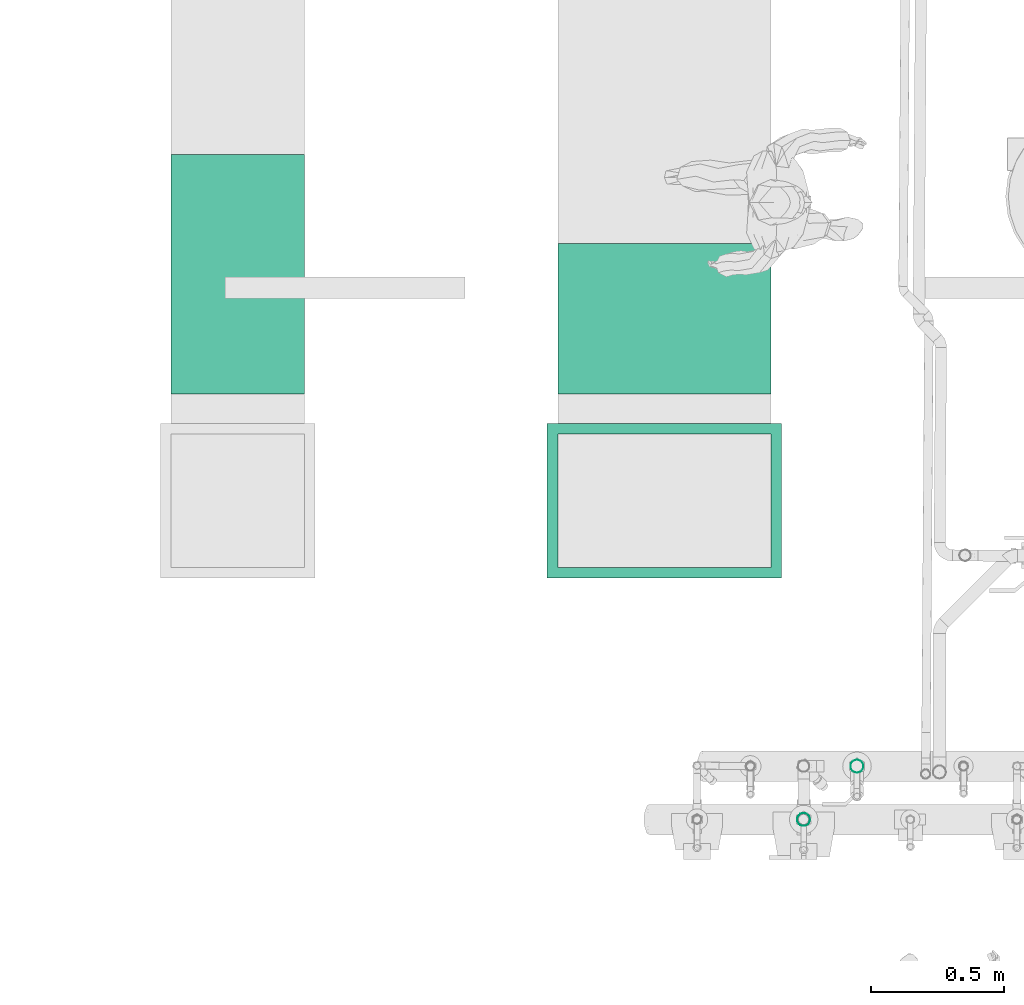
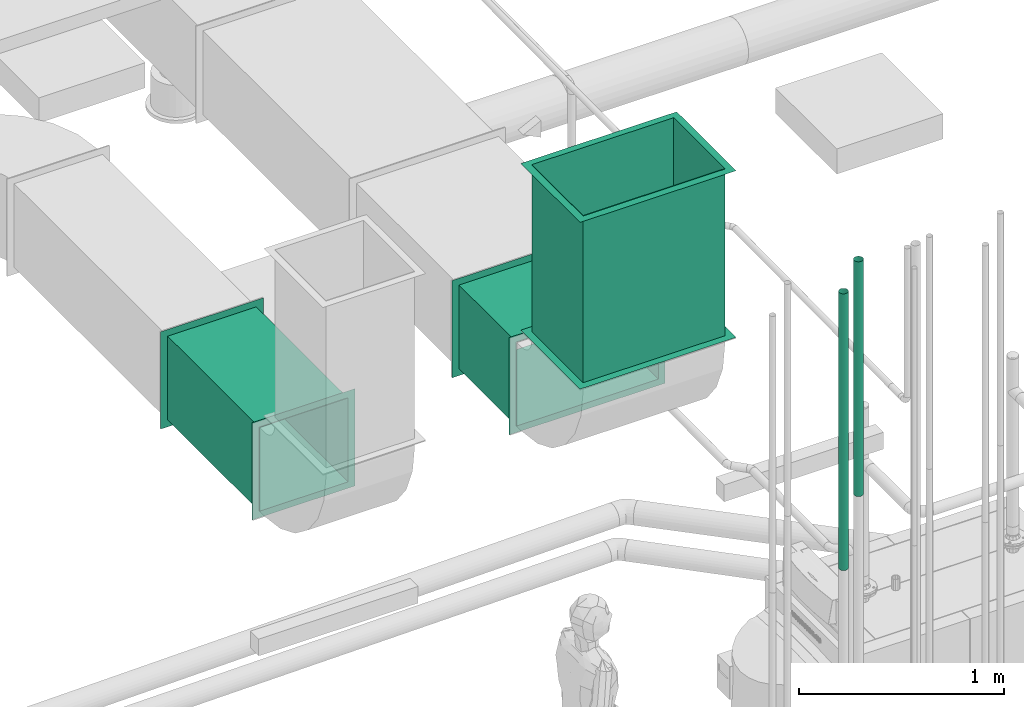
# One storey, part 204 of 374: 5 flow segments.
"""IFC2X3 building model written with IfcOpenShell, lengths in metres."""

import ifcopenshell
import ifcopenshell.guid

model = None  # the IFC model being written
_history = None  # IfcOwnerHistory: only IFC2X3 demands one
_inside = {}  # id of a spatial element -> (the spatial element, [elements in it])
_under = {}  # id of a project, library or spatial element -> (it, [spatial elements below it])
_declared = {}  # id of a project -> (the project, [libraries it declares])
_typed = {}  # id of a type object -> (the type object, [elements of that type])
_made_of = {}  # id of a material, layer set ... -> (it, [elements and type objects made of it])


def new_model(schema):
    """Start an empty IFC model of exactly this schema.

    Asked for "IFC4X3", IfcOpenShell would pick the latest addendum, in which some entities
    have other attributes; the version numbers below select the first issue.
    IFC2X3 requires an IfcOwnerHistory on every rooted entity: one is made here for all.
    """
    global model, _history
    if schema == "IFC4X3":
        model = ifcopenshell.file(schema_version=(4, 3, 0, 0))
    else:
        model = ifcopenshell.file(schema=schema)
    _inside.clear()
    _under.clear()
    _declared.clear()
    _typed.clear()
    _made_of.clear()
    _history = None
    if model.schema == "IFC2X3":
        org = make("IfcOrganization", Name="unknown")
        user = make(
            "IfcPersonAndOrganization",
            ThePerson=make("IfcPerson", FamilyName="unknown"),
            TheOrganization=org,
        )
        app = make(
            "IfcApplication",
            ApplicationDeveloper=org,
            Version="unknown",
            ApplicationFullName="unknown",
            ApplicationIdentifier="unknown",
        )
        _history = make(
            "IfcOwnerHistory",
            OwningUser=user,
            OwningApplication=app,
            ChangeAction="ADDED",
            CreationDate=0,
        )
    return model


def make(cls, **values):
    """One entity of the class cls with the attributes given. An attribute that is None is left unset."""
    return model.create_entity(
        cls, **{name: value for name, value in values.items() if value is not None}
    )


def rooted(cls, **values):
    """An entity with a GlobalId (a new one), such as an element, a storey or a relation."""
    return make(cls, GlobalId=ifcopenshell.guid.new(), OwnerHistory=_history, **values)


def si_unit(unit_type, name, prefix=None):
    """IfcSIUnit, for example si_unit("LENGTHUNIT", "METRE", prefix="MILLI")."""
    return make("IfcSIUnit", UnitType=unit_type, Prefix=prefix, Name=name)


def assignment(units):
    """IfcUnitAssignment: the units of a project."""
    return None if units is None else make("IfcUnitAssignment", Units=units)


def point(xyz):
    """IfcCartesianPoint."""
    return None if xyz is None else make("IfcCartesianPoint", Coordinates=xyz)


def direction(xyz):
    """IfcDirection."""
    return None if xyz is None else make("IfcDirection", DirectionRatios=xyz)


def frame(location, z_axis=None, x_axis=None):
    """IfcAxis2Placement3D, a coordinate frame: its origin and axes. An axis left out is left unset."""
    return make(
        "IfcAxis2Placement3D",
        Location=point(location),
        Axis=direction(z_axis),
        RefDirection=direction(x_axis),
    )


def origin():
    """The frame at (0, 0, 0) with its axes left unset."""
    return frame((0.0, 0.0, 0.0))


def place(relative_to, where):
    """IfcLocalPlacement: puts the frame where relative to a parent placement (None: the world)."""
    return make(
        "IfcLocalPlacement", PlacementRelTo=relative_to, RelativePlacement=where
    )


def context(
    kind, dimensions, precision=None, world=None, true_north=None, identifier=None
):
    """IfcGeometricRepresentationContext, for example the 3D "Model" context."""
    return make(
        "IfcGeometricRepresentationContext",
        ContextIdentifier=identifier,
        ContextType=kind,
        CoordinateSpaceDimension=dimensions,
        Precision=precision,
        WorldCoordinateSystem=world,
        TrueNorth=true_north,
    )


def subcontext(parent, identifier, kind, view, scale=None):
    """IfcGeometricRepresentationSubContext, for example "Body" below "Model"."""
    return make(
        "IfcGeometricRepresentationSubContext",
        ContextIdentifier=identifier,
        ContextType=kind,
        ParentContext=parent,
        TargetScale=scale,
        TargetView=view,
    )


def project(units=None, contexts=None):
    """IfcProject with its units and contexts."""
    return rooted(
        "IfcProject",
        Name="project",
        RepresentationContexts=contexts,
        UnitsInContext=assignment(units),
    )


def spatial(cls, under=None, at=None, **own):
    """A site, building, storey or space (cls), placed at a placement, below another one or the project."""
    s = rooted(cls, ObjectPlacement=at, **own)
    if under is not None:
        _under.setdefault(under.id(), (under, []))[1].append(s)
    return s


def faces_of(points, faces, orient=None, outer=None):
    """IfcFace entities. A face is a list of loops; a loop is a list of indices into points, from 0.

    orient and outer hold one flag for each loop. By default every Orientation is true, the
    first loop of a face is its IfcFaceOuterBound and the others are IfcFaceBound.
    """
    made = []
    for i, loops in enumerate(faces):
        bounds = []
        for j, loop in enumerate(loops):
            is_outer = j == 0 if outer is None else outer[i][j]
            bounds.append(
                make(
                    "IfcFaceOuterBound" if is_outer else "IfcFaceBound",
                    Bound=make("IfcPolyLoop", Polygon=[points[k] for k in loop]),
                    Orientation=True if orient is None else orient[i][j],
                )
            )
        made.append(make("IfcFace", Bounds=bounds))
    return made


def open_shell(faces, orient=None, outer=None):
    """The faces of one IfcOpenShell. surface_model builds it on its shared points."""
    return ("IfcOpenShell", faces, orient, outer)


def surface_model(cls, points, shells):
    """IfcFaceBasedSurfaceModel or IfcShellBasedSurfaceModel (cls): surfaces that need not close."""
    shared = [point(p) for p in points]
    made = [make(c, CfsFaces=faces_of(shared, fs, o, b)) for c, fs, o, b in shells]
    if cls == "IfcFaceBasedSurfaceModel":
        return make(cls, FbsmFaces=made)
    return make(cls, SbsmBoundary=made)


def shape(context_of_items, identifier, shape_type, items):
    """IfcShapeRepresentation: the items that make up one representation, for example the "Body"."""
    return make(
        "IfcShapeRepresentation",
        ContextOfItems=context_of_items,
        RepresentationIdentifier=identifier,
        RepresentationType=shape_type,
        Items=items,
    )


def source(mapping_origin, context_of_items, identifier, shape_type, items):
    """IfcRepresentationMap: a shape defined once, which mapped items show again and again."""
    return make(
        "IfcRepresentationMap",
        MappingOrigin=mapping_origin,
        MappedRepresentation=shape(context_of_items, identifier, shape_type, items),
    )


def transform(
    local_origin,
    x_axis=None,
    y_axis=None,
    z_axis=None,
    scale=None,
    scale2=None,
    scale3=None,
    uniform=True,
):
    """IfcCartesianTransformationOperator3D, or its non-uniform kind. x_axis, y_axis, z_axis: its Axis1, 2, 3."""
    if uniform:
        return make(
            "IfcCartesianTransformationOperator3D",
            Axis1=direction(x_axis),
            Axis2=direction(y_axis),
            LocalOrigin=point(local_origin),
            Scale=scale,
            Axis3=direction(z_axis),
        )
    return make(
        "IfcCartesianTransformationOperator3DnonUniform",
        Axis1=direction(x_axis),
        Axis2=direction(y_axis),
        LocalOrigin=point(local_origin),
        Scale=scale,
        Axis3=direction(z_axis),
        Scale2=scale2,
        Scale3=scale3,
    )


def mapped(mapping_source, mapping_target):
    """IfcMappedItem: shows the shape of a source again, moved by a transform."""
    return make(
        "IfcMappedItem", MappingSource=mapping_source, MappingTarget=mapping_target
    )


def made_of(thing, what):
    """Note that an element or type object is made of a material, layer set ...; save() writes the relation."""
    if what is not None:
        _made_of.setdefault(what.id(), (what, []))[1].append(thing)
    return thing


def element(
    cls,
    number,
    at=None,
    inside=None,
    cuts=None,
    type_object=None,
    material=None,
    context=None,
    identifier="Body",
    shape_type=None,
    held_by="IfcProductDefinitionShape",
    body=None,
    shapes=None,
    **own,
):
    """One element of the class cls, such as IfcWall. Its Tag is "e" and its number.

    at: its placement. inside: the storey or other place that contains it. cuts: it is an
    opening in that element (IfcRelVoidsElement). A single representation is given by context,
    identifier, shape_type and body (its items); several are given by shapes. held_by: the class
    of the entity that holds the representations. save() writes the other relations.
    """
    e = rooted(cls, Tag="e%d" % number, ObjectPlacement=at, **own)
    if body is not None:
        shapes = [shape(context, identifier, shape_type, body)]
    if shapes is not None:
        e.Representation = make(held_by, Representations=shapes)
    if inside is not None:
        _inside.setdefault(inside.id(), (inside, []))[1].append(e)
    if cuts is not None:
        rooted(
            "IfcRelVoidsElement", RelatingBuildingElement=cuts, RelatedOpeningElement=e
        )
    if type_object is not None:
        _typed.setdefault(type_object.id(), (type_object, []))[1].append(e)
    return made_of(e, material)


def aggregate(whole, parts):
    """IfcRelAggregates: a whole, such as a stair, and the parts it consists of."""
    return rooted("IfcRelAggregates", RelatingObject=whole, RelatedObjects=parts)


def save(model, path):
    """Write the relations noted so far, then the file.

    IfcRelAggregates (storeys below a building ...), IfcRelContainedInSpatialStructure (elements
    in a storey), IfcRelDefinesByType, IfcRelAssociatesMaterial and IfcRelDeclares: one each for
    every whole, place, type object, material and project.
    """
    for whole, parts in _under.values():
        aggregate(whole, parts)
    for where, things in _inside.values():
        rooted(
            "IfcRelContainedInSpatialStructure",
            RelatedElements=things,
            RelatingStructure=where,
        )
    for kind, things in _typed.values():
        rooted("IfcRelDefinesByType", RelatedObjects=things, RelatingType=kind)
    for what, things in _made_of.values():
        rooted("IfcRelAssociatesMaterial", RelatedObjects=things, RelatingMaterial=what)
    for by, libraries in _declared.values():
        rooted("IfcRelDeclares", RelatingContext=by, RelatedDefinitions=libraries)
    model.write(path)


model = new_model("IFC2X3")

# Units and contexts
model_context = context("Model", 3, precision=1e-05, world=origin(), true_north=direction((-0.4480736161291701, 0.8939966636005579)))
body_context = subcontext(model_context, "Body", "Model", "MODEL_VIEW")
ifc_project = project(units=[si_unit("LENGTHUNIT", "METRE"), si_unit("AREAUNIT", "SQUARE_METRE"), si_unit("VOLUMEUNIT", "CUBIC_METRE"), si_unit("PLANEANGLEUNIT", "RADIAN"), si_unit("THERMODYNAMICTEMPERATUREUNIT", "KELVIN"), si_unit("MASSUNIT", "GRAM", prefix="KILO"), si_unit("TIMEUNIT", "SECOND")], contexts=[model_context])

# Site, building, storey
site_placement = place(None, origin())
site = spatial("IfcSite", under=ifc_project, at=site_placement, Name="Site 1", CompositionType="ELEMENT")
building_placement = place(site_placement, origin())
building = spatial("IfcBuilding", under=site, at=building_placement, Name="Undefined", CompositionType="ELEMENT")
storey_placement = place(building_placement, origin())
storey = spatial("IfcBuildingStorey", under=building, at=storey_placement, Name="Rez de chauss\x8ee", CompositionType="ELEMENT", Elevation=0.0)

# Flow segments
shared_shape_1 = source(origin(), body_context, "Body", "SurfaceModel", [
    surface_model("IfcFaceBasedSurfaceModel", [(0.0, 0.0, 0.0), (0.8800000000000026, 0.0, 0.0), (0.8400000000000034, 0.040000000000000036, -7.105427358e-15), (0.04000000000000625, 0.040000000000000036, 0.0), (0.8800000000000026, 0.5800000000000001, -2.842170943e-14), (0.8400000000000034, 0.54, -2.842170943e-14), (0.0, 0.5800000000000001, 0.0), (0.04000000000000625, 0.54, 0.0), (-7.105427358e-15, 8.8817842e-16, -0.5595962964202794), (0.8799999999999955, 8.8817842e-16, -0.5595962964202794), (0.8399999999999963, 0.040000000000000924, -0.5595962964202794), (0.03999999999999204, 0.040000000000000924, -0.5595962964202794), (0.8799999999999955, 0.580000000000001, -0.5595962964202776), (0.8399999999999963, 0.5400000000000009, -0.5595962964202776), (-7.105427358e-15, 0.580000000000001, -0.5595962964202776), (0.03999999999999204, 0.5400000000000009, -0.5595962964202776), (0.04000000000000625, 0.54, 0.0030000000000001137), (0.03999999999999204, 0.5400000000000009, -0.5625962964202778), (0.03999999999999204, 0.040000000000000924, -0.5625962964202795), (0.04000000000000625, 0.040000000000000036, 0.0030000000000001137), (0.8399999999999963, 0.040000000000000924, -0.5625962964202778), (0.8400000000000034, 0.040000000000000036, 0.0029999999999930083), (0.8399999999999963, 0.5400000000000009, -0.562596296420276), (0.8400000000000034, 0.54, 0.002999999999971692)], [open_shell([[[0, 1, 2, 3]], [[1, 4, 5, 2]], [[6, 4, 5, 7]], [[0, 6, 7, 3]], [[8, 9, 10, 11]], [[9, 12, 13, 10]], [[14, 12, 13, 15]], [[8, 14, 15, 11]], [[16, 17, 18, 19]], [[19, 18, 20, 21]], [[21, 20, 22, 23]], [[23, 22, 17, 16]]])]),
])
flow_segment_1_placement = place(storey_placement, origin())
element("IfcFlowSegment", 1, at=flow_segment_1_placement, inside=storey, Name="Partie de gaine de ventilation", ObjectType="Partie de gaine de ventilation", context=body_context, shape_type="MappedRepresentation", body=[
    mapped(shared_shape_1, transform((51.4949950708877, 12.876596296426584, 4.090000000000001), x_axis=(1.0, 0.0, 0.0), y_axis=(0.0, 0.0, -1.0), z_axis=(0.0, 1.0, 0.0))),
])
shared_shape_2 = source(origin(), body_context, "Body", "SurfaceModel", [
    surface_model("IfcFaceBasedSurfaceModel", [(0.0, 0.0, 0.0), (0.5800000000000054, 0.0, 0.0), (0.5400000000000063, 0.040000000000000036, 0.0), (0.04000000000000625, 0.040000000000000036, 0.0), (0.5800000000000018, 0.8799999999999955, 0.0), (0.5400000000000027, 0.8399999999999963, 0.0), (1.776356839e-15, 0.8799999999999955, 0.0), (0.0400000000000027, 0.8399999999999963, 0.0), (0.0, 0.0, -0.9939999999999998), (0.5800000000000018, 0.0, -0.9939999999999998), (0.5399999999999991, 0.040000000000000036, -0.9939999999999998), (0.03999999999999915, 0.040000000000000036, -0.9939999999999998), (0.5800000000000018, 0.8799999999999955, -0.9939999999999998), (0.5400000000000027, 0.8399999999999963, -0.9939999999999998), (1.776356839e-15, 0.8799999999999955, -0.9939999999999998), (0.0400000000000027, 0.8399999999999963, -0.9939999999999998), (0.0400000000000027, 0.8399999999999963, 0.0029999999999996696), (0.0400000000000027, 0.8399999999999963, -0.9969999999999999), (0.03999999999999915, 0.040000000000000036, -0.9969999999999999), (0.04000000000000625, 0.040000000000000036, 0.0030000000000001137), (0.5399999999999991, 0.040000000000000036, -0.9969999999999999), (0.5400000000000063, 0.040000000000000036, 0.0030000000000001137), (0.5400000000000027, 0.8399999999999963, -0.9969999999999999), (0.5400000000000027, 0.8399999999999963, 0.0029999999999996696)], [open_shell([[[0, 1, 2, 3]], [[1, 4, 5, 2]], [[6, 4, 5, 7]], [[0, 6, 7, 3]], [[8, 9, 10, 11]], [[9, 12, 13, 10]], [[14, 12, 13, 15]], [[8, 14, 15, 11]], [[16, 17, 18, 19]], [[19, 18, 20, 21]], [[21, 20, 22, 23]], [[23, 22, 17, 16]]])]),
])
flow_segment_2_placement = place(storey_placement, origin())
element("IfcFlowSegment", 2, at=flow_segment_2_placement, inside=storey, Name="Gaine de ventilation", ObjectType="Gaine de ventilation", context=body_context, shape_type="MappedRepresentation", body=[
    mapped(shared_shape_2, transform((51.49499507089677, 11.624000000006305, 4.203), x_axis=(0.0, 1.0, 0.0), y_axis=(1.0, 0.0, 0.0), z_axis=(0.0, 0.0, -1.0))),
])
shared_shape_3 = source(origin(), body_context, "Body", "SurfaceModel", [
    surface_model("IfcFaceBasedSurfaceModel", [(0.0, 0.0, 0.0), (0.5800000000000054, 0.0, 0.0), (0.5400000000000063, 0.040000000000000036, 0.0), (0.04000000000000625, 0.040000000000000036, 0.0), (0.5800000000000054, 0.5800000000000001, 0.0), (0.5400000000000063, 0.54, 0.0), (0.0, 0.5800000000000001, 0.0), (0.04000000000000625, 0.54, 0.0), (0.0, 0.0, -0.8935738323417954), (0.5799999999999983, 0.0, -0.8935738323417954), (0.5399999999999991, 0.040000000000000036, -0.8935738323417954), (0.03999999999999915, 0.040000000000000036, -0.8935738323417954), (0.5799999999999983, 0.5800000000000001, -0.8935738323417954), (0.5399999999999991, 0.54, -0.8935738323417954), (0.0, 0.5800000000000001, -0.8935738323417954), (0.03999999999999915, 0.54, -0.8935738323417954), (0.04000000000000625, 0.54, 0.0030000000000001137), (0.03999999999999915, 0.54, -0.8965738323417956), (0.03999999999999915, 0.040000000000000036, -0.8965738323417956), (0.04000000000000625, 0.040000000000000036, 0.0030000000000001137), (0.5399999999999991, 0.040000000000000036, -0.8965738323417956), (0.5400000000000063, 0.040000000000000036, 0.0030000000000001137), (0.5399999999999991, 0.54, -0.8965738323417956), (0.5400000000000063, 0.54, 0.0030000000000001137)], [open_shell([[[0, 1, 2, 3]], [[1, 4, 5, 2]], [[6, 4, 5, 7]], [[0, 6, 7, 3]], [[8, 9, 10, 11]], [[9, 12, 13, 10]], [[14, 12, 13, 15]], [[8, 14, 15, 11]], [[16, 17, 18, 19]], [[19, 18, 20, 21]], [[21, 20, 22, 23]], [[23, 22, 17, 16]]])]),
])
flow_segment_3_placement = place(storey_placement, origin())
element("IfcFlowSegment", 3, at=flow_segment_3_placement, inside=storey, Name="Partie de gaine de ventilation", ObjectType="Partie de gaine de ventilation", context=body_context, shape_type="MappedRepresentation", body=[
    mapped(shared_shape_3, transform((50.62499663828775, 13.210573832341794, 3.5100000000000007), x_axis=(-1.0, 0.0, 0.0), y_axis=(0.0, 0.0, 1.0), z_axis=(0.0, 1.0, 0.0))),
])
shared_shape_4 = source(origin(), body_context, "Body", "SurfaceModel", [
    surface_model("IfcFaceBasedSurfaceModel", [(0.0, 0.006304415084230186, 7.105427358e-15), (0.0, 0.0, 0.0), (1.4, 8.8817842e-16, 7.105427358e-15), (1.4, 0.00630441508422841, 0.0), (0.0, -0.006089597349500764, -0.0016317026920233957), (1.4, -0.006089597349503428, -0.0016317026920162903), (0.0, -0.011549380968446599, -0.004783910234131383), (1.4, -0.011549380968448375, -0.004783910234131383), (0.0, -0.016007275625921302, -0.009241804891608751), (1.4, -0.016007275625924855, -0.009241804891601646), (0.0, -0.01915948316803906, -0.014701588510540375), (1.4, -0.019159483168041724, -0.01470158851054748), (0.0, -0.020791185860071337, -0.020791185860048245), (1.4, -0.02079118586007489, -0.020791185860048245), (0.0, -0.020791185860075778, -0.027095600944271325), (1.4, -0.020791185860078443, -0.02709560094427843), (0.0, -0.01915948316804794, -0.03318519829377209), (1.4, -0.019159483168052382, -0.03318519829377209), (0.0, -0.01600727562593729, -0.038644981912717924), (1.4, -0.016007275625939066, -0.03864498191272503), (0.0, -0.011549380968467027, -0.0431028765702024), (1.4, -0.011549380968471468, -0.0431028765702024), (0.0, -0.006089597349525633, -0.04625508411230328), (1.4, -0.006089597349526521, -0.04625508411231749), (0.0, -2.4868995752e-14, -0.04788678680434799), (1.4, -2.6645352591e-14, -0.0478867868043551), (0.0, 0.006304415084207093, -0.047886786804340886), (1.4, 0.0063044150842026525, -0.0478867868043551), (0.0, 0.012394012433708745, -0.046255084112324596), (1.4, 0.012394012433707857, -0.0462550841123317), (0.0, 0.01785379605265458, -0.0431028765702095), (1.4, 0.017853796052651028, -0.04310287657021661), (0.0, 0.022311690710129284, -0.03864498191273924), (1.4, 0.022311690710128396, -0.03864498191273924), (0.0, 0.02546389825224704, -0.03318519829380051), (1.4, 0.025463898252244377, -0.033185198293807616), (0.0, 0.02709560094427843, -0.027095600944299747), (1.4, 0.027095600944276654, -0.027095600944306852), (0.0, 0.02709560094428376, -0.02079118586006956), (1.4, 0.027095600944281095, -0.020791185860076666), (0.0, 0.025463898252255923, -0.014701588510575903), (1.4, 0.025463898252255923, -0.014701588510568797), (0.0, 0.02231169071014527, -0.009241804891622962), (1.4, 0.02231169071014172, -0.009241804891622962), (0.0, 0.01785379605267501, -0.004783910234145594), (1.4, 0.017853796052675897, -0.004783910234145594), (0.0, 0.012394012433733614, -0.0016317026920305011), (1.4, 0.012394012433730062, -0.0016317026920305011)], [open_shell([[[0, 1, 2, 3]], [[1, 4, 5, 2]], [[4, 6, 7, 5]], [[6, 8, 9, 7]], [[8, 10, 11, 9]], [[10, 12, 13, 11]], [[12, 14, 15, 13]], [[14, 16, 17, 15]], [[16, 18, 19, 17]], [[18, 20, 21, 19]], [[20, 22, 23, 21]], [[22, 24, 25, 23]], [[24, 26, 27, 25]], [[26, 28, 29, 27]], [[28, 30, 31, 29]], [[30, 32, 33, 31]], [[32, 34, 35, 33]], [[34, 36, 37, 35]], [[36, 38, 39, 37]], [[38, 40, 41, 39]], [[40, 42, 43, 41]], [[42, 44, 45, 43]], [[44, 46, 47, 45]], [[46, 0, 3, 47]]])]),
])
flow_segment_4_placement = place(storey_placement, origin())
element("IfcFlowSegment", 4, at=flow_segment_4_placement, inside=storey, Name="Tube acier d'après DIN 2448", ObjectType="Tube acier d'après DIN 2448", context=body_context, shape_type="MappedRepresentation", body=[
    mapped(shared_shape_4, transform((52.68088912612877, 10.924287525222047, 3.6), x_axis=(0.0, 0.0, 1.0), y_axis=(0.13052619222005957, -0.9914448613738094, 0.0), z_axis=(0.9914448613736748, 0.13052619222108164, 0.0))),
])
shared_shape_5 = source(origin(), body_context, "Body", "SurfaceModel", [
    surface_model("IfcFaceBasedSurfaceModel", [(0.0, 0.006304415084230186, 7.105427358e-15), (0.0, 0.0, 0.0), (1.649798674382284, 0.0, 0.0), (1.649798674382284, 0.006304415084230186, 7.105427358e-15), (0.0, -0.006089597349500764, -0.0016317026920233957), (1.649798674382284, -0.006089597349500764, -0.0016317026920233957), (0.0, -0.011549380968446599, -0.004783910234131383), (1.649798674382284, -0.011549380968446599, -0.004783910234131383), (0.0, -0.016007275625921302, -0.009241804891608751), (1.649798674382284, -0.016007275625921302, -0.009241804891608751), (0.0, -0.01915948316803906, -0.014701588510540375), (1.649798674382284, -0.01915948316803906, -0.014701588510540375), (0.0, -0.020791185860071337, -0.020791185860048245), (1.649798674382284, -0.020791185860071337, -0.020791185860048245), (0.0, -0.020791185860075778, -0.027095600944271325), (1.649798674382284, -0.020791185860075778, -0.027095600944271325), (0.0, -0.01915948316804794, -0.03318519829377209), (1.649798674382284, -0.01915948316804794, -0.03318519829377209), (0.0, -0.01600727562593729, -0.038644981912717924), (1.649798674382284, -0.01600727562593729, -0.038644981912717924), (0.0, -0.011549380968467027, -0.0431028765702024), (1.649798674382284, -0.011549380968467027, -0.0431028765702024), (0.0, -0.006089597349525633, -0.04625508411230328), (1.649798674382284, -0.006089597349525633, -0.04625508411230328), (0.0, -2.4868995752e-14, -0.04788678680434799), (1.649798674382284, -2.4868995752e-14, -0.04788678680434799), (0.0, 0.006304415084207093, -0.047886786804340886), (1.649798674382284, 0.006304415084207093, -0.047886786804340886), (0.0, 0.012394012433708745, -0.046255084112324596), (1.649798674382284, 0.012394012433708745, -0.046255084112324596), (0.0, 0.01785379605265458, -0.0431028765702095), (1.649798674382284, 0.01785379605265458, -0.0431028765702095), (0.0, 0.022311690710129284, -0.03864498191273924), (1.649798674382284, 0.022311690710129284, -0.03864498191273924), (0.0, 0.02546389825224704, -0.03318519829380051), (1.649798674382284, 0.02546389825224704, -0.03318519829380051), (0.0, 0.02709560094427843, -0.027095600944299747), (1.649798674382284, 0.02709560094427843, -0.027095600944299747), (0.0, 0.02709560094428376, -0.02079118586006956), (1.649798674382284, 0.02709560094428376, -0.02079118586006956), (0.0, 0.025463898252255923, -0.014701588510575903), (1.649798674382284, 0.025463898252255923, -0.014701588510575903), (0.0, 0.02231169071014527, -0.009241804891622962), (1.649798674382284, 0.02231169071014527, -0.009241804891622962), (0.0, 0.01785379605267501, -0.004783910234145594), (1.649798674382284, 0.01785379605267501, -0.004783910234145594), (0.0, 0.012394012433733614, -0.0016317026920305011), (1.649798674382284, 0.012394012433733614, -0.0016317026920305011)], [open_shell([[[0, 1, 2, 3]], [[1, 4, 5, 2]], [[4, 6, 7, 5]], [[6, 8, 9, 7]], [[8, 10, 11, 9]], [[10, 12, 13, 11]], [[12, 14, 15, 13]], [[14, 16, 17, 15]], [[16, 18, 19, 17]], [[18, 20, 21, 19]], [[20, 22, 23, 21]], [[22, 24, 25, 23]], [[24, 26, 27, 25]], [[26, 28, 29, 27]], [[28, 30, 31, 29]], [[30, 32, 33, 31]], [[32, 34, 35, 33]], [[34, 36, 37, 35]], [[36, 38, 39, 37]], [[38, 40, 41, 39]], [[40, 42, 43, 41]], [[42, 44, 45, 43]], [[44, 46, 47, 45]], [[46, 0, 3, 47]]])]),
])
flow_segment_5_placement = place(storey_placement, origin())
element("IfcFlowSegment", 5, at=flow_segment_5_placement, inside=storey, Name="Tube acier d'après DIN 2448", ObjectType="Tube acier d'après DIN 2448", context=body_context, shape_type="MappedRepresentation", body=[
    mapped(shared_shape_5, transform((52.48088912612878, 10.724287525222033, 3.350201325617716), x_axis=(0.0, 0.0, 1.0), y_axis=(0.13052619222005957, -0.9914448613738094, 0.0), z_axis=(0.9914448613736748, 0.13052619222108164, 0.0))),
])

save(model, "model.ifc")
